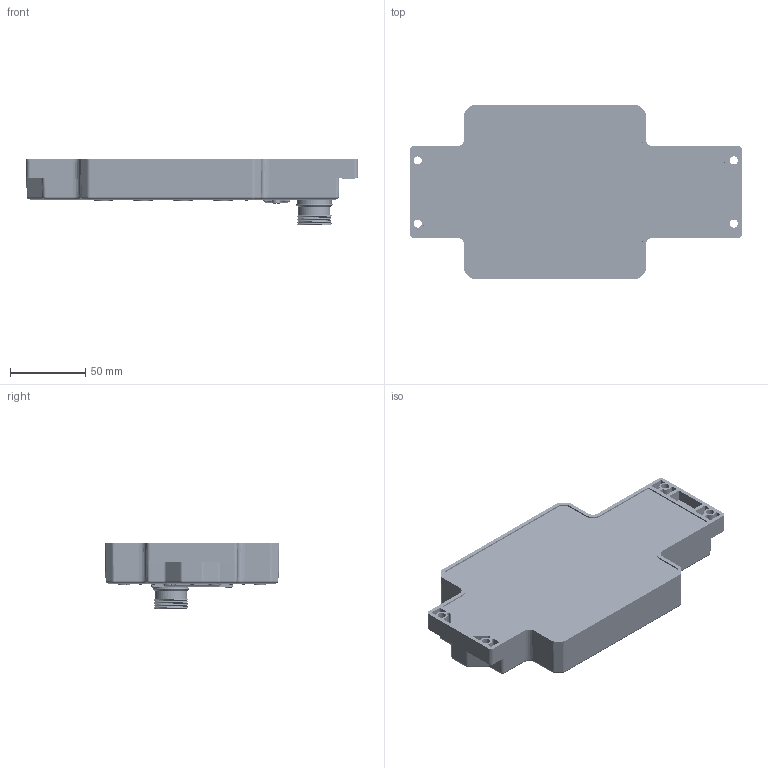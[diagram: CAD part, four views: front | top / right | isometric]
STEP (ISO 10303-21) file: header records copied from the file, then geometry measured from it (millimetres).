
FILE_DESCRIPTION((''),'2;1');
FILE_NAME('C:\TurckZip\16MB12-CS19.stp','2010-05-12T09:21:20',('IKOROL'),(''),'Autodesk Inventor 2009','Autodesk Inventor 2009','');
FILE_SCHEMA(('CONFIG_CONTROL_DESIGN'));
Length unit declared in the file: millimetre
Products named in the file (1): Part1
Bounding box: 220.94 x 115.94 x 44 mm (x, y, z)
Volume: 188148.7 mm3; surface area: 165480.6 mm2
Topology: 1 solids, 143 shells, 4069 faces, 10059 edges, 6569 vertices
Faces by surface type: cylinder 1730, plane 1661, cone 346, torus 153, bspline 146, sphere 33
Full cylindrical faces by diameter (mm): 1 x19, 1.6 x2, 2.4 x2, 3.48 x2, 3.8 x2, 4 x3, 5 x35, 5.5 x2, 6 x3, 11 x16, 12.8 x16, 13 x16, 14.3 x16, 15 x1, 20.2 x2, 20.4 x1, 21.4 x1, 22.9 x1, 23.8 x4
Entity records: 132163 total; most frequent: CARTESIAN_POINT 31286, DIRECTION 21313, ORIENTED_EDGE 18674, EDGE_CURVE 9337, AXIS2_PLACEMENT_3D 8370, VERTEX_POINT 6338, EDGE_LOOP 5261, VECTOR 4573
